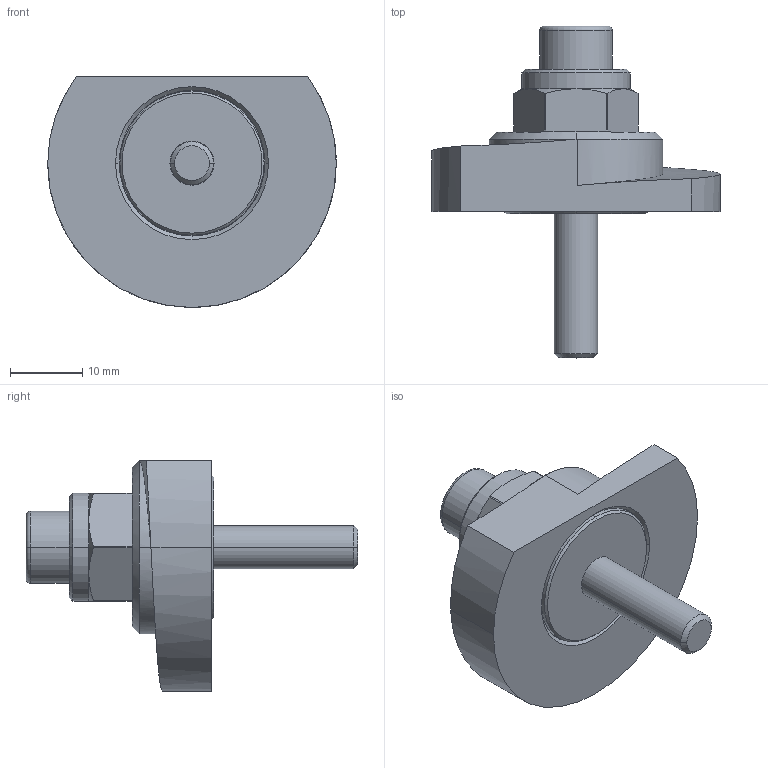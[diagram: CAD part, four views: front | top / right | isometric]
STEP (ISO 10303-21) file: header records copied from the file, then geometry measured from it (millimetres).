
FILE_DESCRIPTION (( 'STEP AP214' ), '1' );
FILE_NAME ('918.1-40-SKS-R-20.step', '2024-05-15T13:01:08', ( '' ), ( '' ), 'SwSTEP 2.0', 'SolidWorks 2022', '' );
FILE_SCHEMA (( 'AUTOMOTIVE_DESIGN' ));
Length unit declared in the file: millimetre
Products named in the file (1): 918.1-40-SKS-R-20
Bounding box: 40 x 46 x 32 mm (x, y, z)
Volume: 11515.5 mm3; surface area: 6585.5 mm2
Topology: 1 solids, 2 shells, 82 faces, 185 edges, 116 vertices
Faces by surface type: cylinder 30, plane 26, cone 22, torus 2, bspline 2
Entity records: 2641 total; most frequent: CARTESIAN_POINT 753, DIRECTION 407, ORIENTED_EDGE 370, EDGE_CURVE 185, AXIS2_PLACEMENT_3D 163, VERTEX_POINT 116, EDGE_LOOP 93, CIRCLE 82
